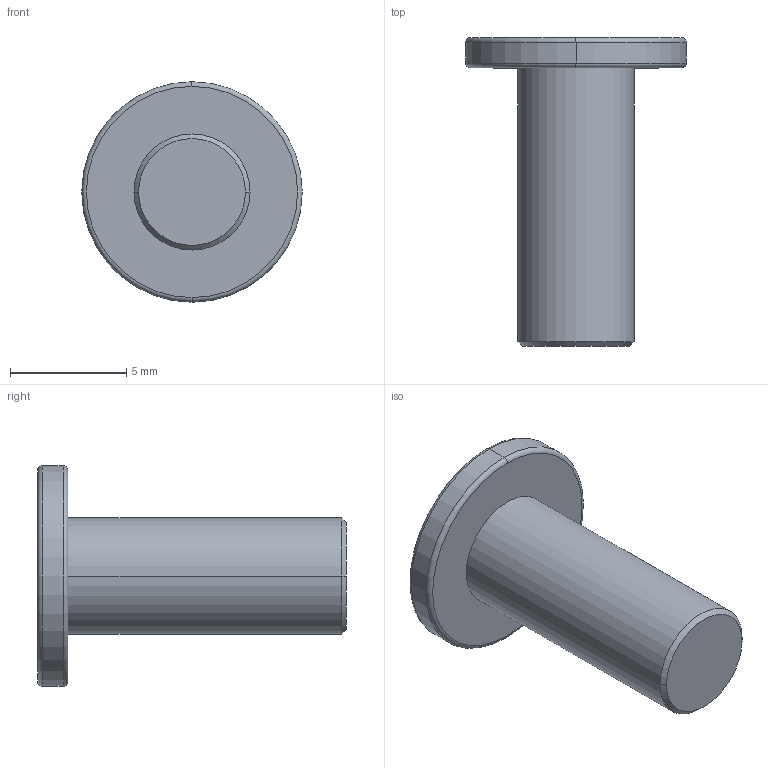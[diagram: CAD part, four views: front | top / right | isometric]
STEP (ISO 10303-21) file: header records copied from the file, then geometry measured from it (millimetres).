
FILE_DESCRIPTION((''),'2;1');
FILE_NAME('Y_JG_WJ_B00264','2023-08-03T16:54:33',('colin.liao'),(''),'CREO PARAMETRIC BY PTC INC, 2019164','CREO PARAMETRIC BY PTC INC, 2019164','');
FILE_SCHEMA(('CONFIG_CONTROL_DESIGN','SHAPE_APPEARANCE_LAYERS_GROUPS'));
Length unit declared in the file: millimetre
Products named in the file (1): Y_JG_WJ_B00264
Bounding box: 9.5 x 13.3 x 9.5 mm (x, y, z)
Volume: 322.7 mm3; surface area: 369.2 mm2
Topology: 1 solids, 1 shells, 50 faces, 102 edges, 56 vertices
Faces by surface type: plane 16, cylinder 16, cone 8, sphere 6, torus 4
Entity records: 1644 total; most frequent: COLOUR_RGB 312, DIRECTION 250, CARTESIAN_POINT 208, ORIENTED_EDGE 204, EDGE_CURVE 102, AXIS2_PLACEMENT_3D 98, VERTEX_POINT 56, VECTOR 54
